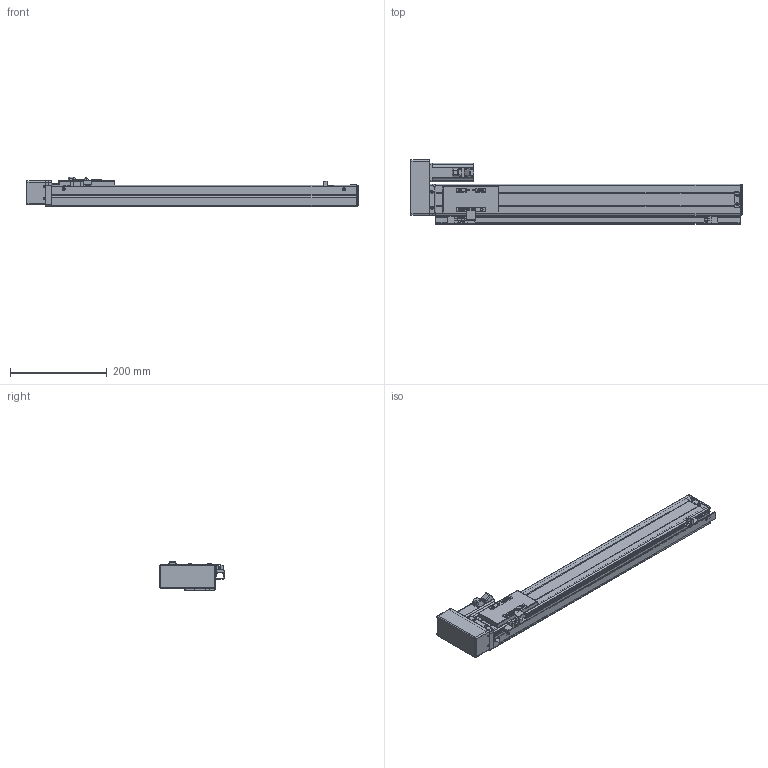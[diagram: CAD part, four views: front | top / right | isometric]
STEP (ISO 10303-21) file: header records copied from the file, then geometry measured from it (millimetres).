
FILE_DESCRIPTION (( 'STEP AP203' ), '1' );
FILE_NAME ('VT6-L10-C-S480-BR-P10-D4.STEP', '2015-10-26T06:17:15', ( '' ), ( '' ), 'SwSTEP 2.0', 'SolidWorks 2013', '' );
FILE_SCHEMA (( 'CONFIG_CONTROL_DESIGN' ));
Length unit declared in the file: millimetre
Products named in the file (17): T6-BRL萇儂假蚾啣; T6-覜茼え; ET6-BC癹弇羲壽羞_480; EE-XS674; VT6-L10-C-S480-BR-P10-D4; ET6-BC耜啣_480; T6-賑雄殤; T6-裔啣; T6-揤輸; T6-綴傷裔; T6-BMRLヶ傷裔揤啣; T6-BMLRヶ傷裔; ET6-BLRM佪裝_480; T6-BMRL肮祭湍謫欶; ET6-BLRM絳寢_俴最480; ET6-BLRM滅鳥湍_480; 侂狟100W MSMD012G1U
Assembly tree (19 placements, depth 2):
  VT6-L10-C-S480-BR-P10-D4
    ET6-BC耜啣_480  x2
    T6-賑雄殤
    T6-裔啣
    T6-揤輸
    T6-綴傷裔
    ET6-BLRM絳寢_俴最480
    ET6-BLRM滅鳥湍_480
    ET6-BLRM佪裝_480
    T6-BMLRヶ傷裔
    T6-BMRLヶ傷裔揤啣
    T6-BMRL肮祭湍謫欶
    侂狟100W MSMD012G1U
    T6-BRL萇儂假蚾啣
    T6-覜茼え
    ET6-BC癹弇羲壽羞_480
    EE-XS674  x3
Bounding box: 687 x 133 x 61 mm (x, y, z)
Volume: 845524.6 mm3; surface area: 531296.7 mm2
Topology: 19 solids, 19 shells, 905 faces, 2400 edges, 1520 vertices
Faces by surface type: cylinder 431, plane 374, cone 46, torus 36, sphere 18
Entity records: 27989 total; most frequent: CARTESIAN_POINT 4705, DIRECTION 4686, ORIENTED_EDGE 4318, EDGE_CURVE 2159, AXIS2_PLACEMENT_3D 1721, VERTEX_POINT 1380, LINE 1244, VECTOR 1244
